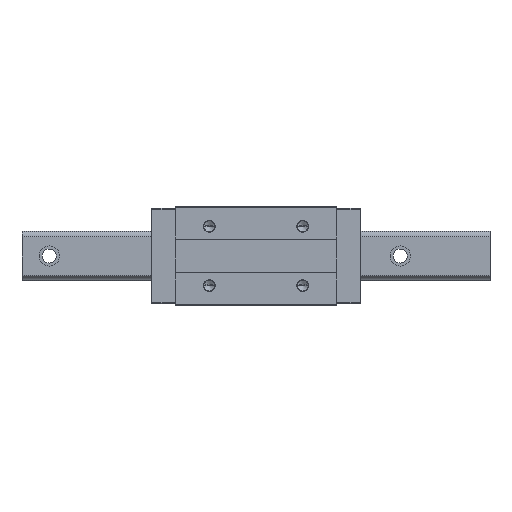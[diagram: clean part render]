
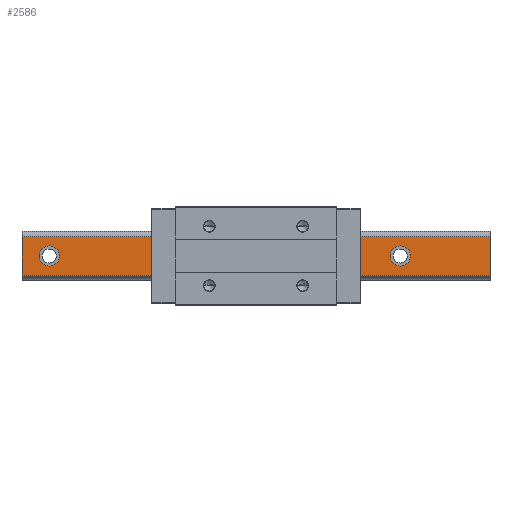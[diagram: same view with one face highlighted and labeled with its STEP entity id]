
A CAD part, top view. The second image highlights one B-rep face of the part: STEP entity #2586.
In plain terms, the highlighted planar face has unit normal (0, 0, 1).
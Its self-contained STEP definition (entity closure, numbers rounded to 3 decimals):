
#140 = VERTEX_POINT ( 'NONE', #4186 ) ;
#192 = EDGE_CURVE ( 'NONE', #5012, #140, #2064, .T. ) ;
#195 = CARTESIAN_POINT ( 'NONE',  ( -265., 0., 53. ) ) ;
#314 = VECTOR ( 'NONE', #1877, 1000. ) ;
#325 = AXIS2_PLACEMENT_3D ( 'NONE', #3295, #2433, #5274 ) ;
#408 = CARTESIAN_POINT ( 'NONE',  ( 198., 0., 53. ) ) ;
#430 = CIRCLE ( 'NONE', #5225, 13. ) ;
#561 = CARTESIAN_POINT ( 'NONE',  ( 300., -24.864, 53. ) ) ;
#664 = CIRCLE ( 'NONE', #325, 13. ) ;
#713 = EDGE_CURVE ( 'NONE', #1748, #3457, #4887, .T. ) ;
#714 = CARTESIAN_POINT ( 'NONE',  ( -102., 0., 53. ) ) ;
#715 = CARTESIAN_POINT ( 'NONE',  ( -300., 24.864, 53. ) ) ;
#749 = AXIS2_PLACEMENT_3D ( 'NONE', #195, #5044, #4182 ) ;
#843 = DIRECTION ( 'NONE',  ( 0., -1., 0. ) ) ;
#857 = EDGE_LOOP ( 'NONE', ( #4774, #953, #2097, #3406 ) ) ;
#928 = ORIENTED_EDGE ( 'NONE', *, *, #2491, .F. ) ;
#953 = ORIENTED_EDGE ( 'NONE', *, *, #1453, .F. ) ;
#1000 = EDGE_LOOP ( 'NONE', ( #4062, #2274 ) ) ;
#1011 = DIRECTION ( 'NONE',  ( 0., 0., 1. ) ) ;
#1014 = CARTESIAN_POINT ( 'NONE',  ( -115., 0., 53. ) ) ;
#1021 = CARTESIAN_POINT ( 'NONE',  ( 300., -24.864, 53. ) ) ;
#1081 = CARTESIAN_POINT ( 'NONE',  ( 300., 24.864, 53. ) ) ;
#1128 = CARTESIAN_POINT ( 'NONE',  ( -300., -24.864, 53. ) ) ;
#1143 = DIRECTION ( 'NONE',  ( 0., 0., 1. ) ) ;
#1198 = LINE ( 'NONE', #3267, #5136 ) ;
#1228 = CARTESIAN_POINT ( 'NONE',  ( 185., 0., 53. ) ) ;
#1320 = VERTEX_POINT ( 'NONE', #408 ) ;
#1389 = FACE_BOUND ( 'NONE', #3852, .T. ) ;
#1395 = ORIENTED_EDGE ( 'NONE', *, *, #2872, .F. ) ;
#1417 = FACE_BOUND ( 'NONE', #5086, .T. ) ;
#1453 = EDGE_CURVE ( 'NONE', #140, #2693, #3919, .T. ) ;
#1476 = CARTESIAN_POINT ( 'NONE',  ( 35., 0., 53. ) ) ;
#1480 = EDGE_CURVE ( 'NONE', #5041, #2812, #430, .T. ) ;
#1552 = DIRECTION ( 'NONE',  ( 1., 0., 0. ) ) ;
#1660 = CARTESIAN_POINT ( 'NONE',  ( 300., -24.864, 53. ) ) ;
#1679 = CIRCLE ( 'NONE', #5028, 13. ) ;
#1733 = CARTESIAN_POINT ( 'NONE',  ( -278., 0., 53. ) ) ;
#1748 = VERTEX_POINT ( 'NONE', #714 ) ;
#1854 = DIRECTION ( 'NONE',  ( -1., 0., 0. ) ) ;
#1877 = DIRECTION ( 'NONE',  ( -1., 0., 0. ) ) ;
#1954 = CARTESIAN_POINT ( 'NONE',  ( 35., 0., 53. ) ) ;
#1965 = CARTESIAN_POINT ( 'NONE',  ( -252., 0., 53. ) ) ;
#2001 = CARTESIAN_POINT ( 'NONE',  ( 22., 0., 53. ) ) ;
#2064 = LINE ( 'NONE', #1660, #3991 ) ;
#2090 = AXIS2_PLACEMENT_3D ( 'NONE', #4822, #2832, #2854 ) ;
#2097 = ORIENTED_EDGE ( 'NONE', *, *, #192, .F. ) ;
#2118 = VERTEX_POINT ( 'NONE', #3812 ) ;
#2274 = ORIENTED_EDGE ( 'NONE', *, *, #2704, .F. ) ;
#2433 = DIRECTION ( 'NONE',  ( 0., 0., 1. ) ) ;
#2491 = EDGE_CURVE ( 'NONE', #4663, #3915, #3500, .T. ) ;
#2575 = FACE_BOUND ( 'NONE', #1000, .T. ) ;
#2586 = ADVANCED_FACE ( 'NONE', ( #3439, #1417, #2575, #1389, #5015 ), #4668, .F. ) ;
#2693 = VERTEX_POINT ( 'NONE', #1128 ) ;
#2695 = LINE ( 'NONE', #1081, #5265 ) ;
#2704 = EDGE_CURVE ( 'NONE', #2812, #5041, #2885, .T. ) ;
#2777 = DIRECTION ( 'NONE',  ( 1., 0., 0. ) ) ;
#2812 = VERTEX_POINT ( 'NONE', #2001 ) ;
#2832 = DIRECTION ( 'NONE',  ( 0., 0., 1. ) ) ;
#2839 = EDGE_CURVE ( 'NONE', #3457, #1748, #664, .T. ) ;
#2854 = DIRECTION ( 'NONE',  ( 1., 0., 0. ) ) ;
#2860 = DIRECTION ( 'NONE',  ( 1., 0., 0. ) ) ;
#2872 = EDGE_CURVE ( 'NONE', #2118, #1320, #1679, .T. ) ;
#2885 = CIRCLE ( 'NONE', #5114, 13. ) ;
#2898 = DIRECTION ( 'NONE',  ( 0., -1., 0. ) ) ;
#2915 = DIRECTION ( 'NONE',  ( 0., 0., 1. ) ) ;
#2959 = ORIENTED_EDGE ( 'NONE', *, *, #4270, .F. ) ;
#3186 = CARTESIAN_POINT ( 'NONE',  ( -265., 0., 53. ) ) ;
#3197 = CARTESIAN_POINT ( 'NONE',  ( 300., 24.864, 53. ) ) ;
#3267 = CARTESIAN_POINT ( 'NONE',  ( -300., -24.864, 53. ) ) ;
#3295 = CARTESIAN_POINT ( 'NONE',  ( -115., 0., 53. ) ) ;
#3341 = AXIS2_PLACEMENT_3D ( 'NONE', #3186, #1011, #4282 ) ;
#3374 = DIRECTION ( 'NONE',  ( 0., 0., 1. ) ) ;
#3406 = ORIENTED_EDGE ( 'NONE', *, *, #4879, .T. ) ;
#3439 = FACE_BOUND ( 'NONE', #4534, .T. ) ;
#3457 = VERTEX_POINT ( 'NONE', #4640 ) ;
#3500 = CIRCLE ( 'NONE', #749, 13. ) ;
#3526 = AXIS2_PLACEMENT_3D ( 'NONE', #1014, #3374, #3884 ) ;
#3743 = AXIS2_PLACEMENT_3D ( 'NONE', #561, #3835, #4989 ) ;
#3794 = ORIENTED_EDGE ( 'NONE', *, *, #4128, .F. ) ;
#3810 = CIRCLE ( 'NONE', #2090, 13. ) ;
#3812 = CARTESIAN_POINT ( 'NONE',  ( 172., 0., 53. ) ) ;
#3835 = DIRECTION ( 'NONE',  ( 0., 0., -1. ) ) ;
#3852 = EDGE_LOOP ( 'NONE', ( #2959, #1395 ) ) ;
#3884 = DIRECTION ( 'NONE',  ( 1., 0., 0. ) ) ;
#3915 = VERTEX_POINT ( 'NONE', #1733 ) ;
#3919 = LINE ( 'NONE', #1021, #314 ) ;
#3991 = VECTOR ( 'NONE', #2898, 1000. ) ;
#4062 = ORIENTED_EDGE ( 'NONE', *, *, #1480, .F. ) ;
#4101 = ORIENTED_EDGE ( 'NONE', *, *, #713, .F. ) ;
#4128 = EDGE_CURVE ( 'NONE', #3915, #4663, #4617, .T. ) ;
#4182 = DIRECTION ( 'NONE',  ( 1., 0., 0. ) ) ;
#4186 = CARTESIAN_POINT ( 'NONE',  ( 300., -24.864, 53. ) ) ;
#4187 = ORIENTED_EDGE ( 'NONE', *, *, #2839, .F. ) ;
#4269 = EDGE_CURVE ( 'NONE', #4496, #2693, #1198, .T. ) ;
#4270 = EDGE_CURVE ( 'NONE', #1320, #2118, #3810, .T. ) ;
#4282 = DIRECTION ( 'NONE',  ( 1., 0., 0. ) ) ;
#4383 = CARTESIAN_POINT ( 'NONE',  ( 48., 0., 53. ) ) ;
#4496 = VERTEX_POINT ( 'NONE', #715 ) ;
#4534 = EDGE_LOOP ( 'NONE', ( #928, #3794 ) ) ;
#4617 = CIRCLE ( 'NONE', #3341, 13. ) ;
#4640 = CARTESIAN_POINT ( 'NONE',  ( -128., 0., 53. ) ) ;
#4663 = VERTEX_POINT ( 'NONE', #1965 ) ;
#4668 = PLANE ( 'NONE',  #3743 ) ;
#4774 = ORIENTED_EDGE ( 'NONE', *, *, #4269, .T. ) ;
#4822 = CARTESIAN_POINT ( 'NONE',  ( 185., 0., 53. ) ) ;
#4879 = EDGE_CURVE ( 'NONE', #5012, #4496, #2695, .T. ) ;
#4887 = CIRCLE ( 'NONE', #3526, 13. ) ;
#4989 = DIRECTION ( 'NONE',  ( 0., -1., 0. ) ) ;
#5012 = VERTEX_POINT ( 'NONE', #3197 ) ;
#5015 = FACE_OUTER_BOUND ( 'NONE', #857, .T. ) ;
#5028 = AXIS2_PLACEMENT_3D ( 'NONE', #1228, #2915, #2860 ) ;
#5041 = VERTEX_POINT ( 'NONE', #4383 ) ;
#5044 = DIRECTION ( 'NONE',  ( 0., 0., 1. ) ) ;
#5086 = EDGE_LOOP ( 'NONE', ( #4101, #4187 ) ) ;
#5114 = AXIS2_PLACEMENT_3D ( 'NONE', #1954, #5227, #1552 ) ;
#5136 = VECTOR ( 'NONE', #843, 1000. ) ;
#5225 = AXIS2_PLACEMENT_3D ( 'NONE', #1476, #1143, #2777 ) ;
#5227 = DIRECTION ( 'NONE',  ( 0., 0., 1. ) ) ;
#5265 = VECTOR ( 'NONE', #1854, 1000. ) ;
#5274 = DIRECTION ( 'NONE',  ( 1., 0., 0. ) ) ;
